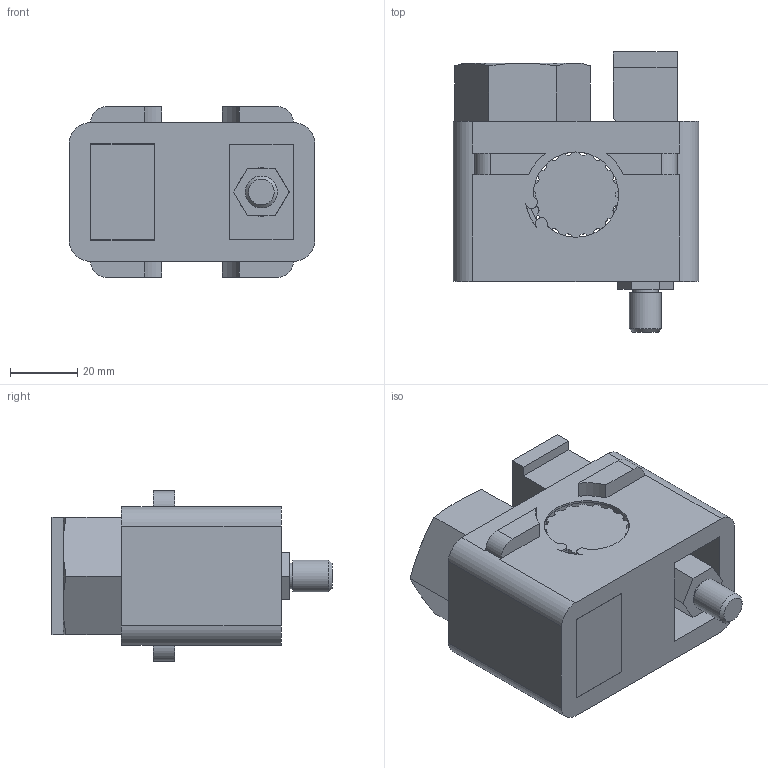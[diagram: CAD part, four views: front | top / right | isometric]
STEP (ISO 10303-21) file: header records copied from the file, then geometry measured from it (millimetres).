
FILE_DESCRIPTION(/* description */ ('STEP AP214'),/* implementation_level */ '2;1');
FILE_NAME(/* name */ 'AEP-20',/* time_stamp */ '2024-12-04T11:11:59+01:00',/* author */ ('License CC BY-ND 4.0'),/* organization */ ('CADENAS'),/* preprocessor_version */ 'ST-DEVELOPER v19.3',/* originating_system */ 'PARTsolutions',/* authorisation */ ' ');
FILE_SCHEMA (('AUTOMOTIVE_DESIGN {1 0 10303 214 3 1 1}'));
Length unit declared in the file: inch
Products named in the file (5): AEP-20; AEP-201; AEP-202; AEP-203; AEP-204
Assembly tree (4 placements, depth 2):
  AEP-20
    AEP-201
    AEP-202
    AEP-203
    AEP-204
Bounding box: 73.03 x 83.36 x 50.77 mm (x, y, z)
Volume: 162884 mm3; surface area: 46966.3 mm2
Topology: 4 solids, 4 shells, 253 faces, 716 edges, 475 vertices
Faces by surface type: plane 179, cylinder 66, cone 8
Full cylindrical faces by diameter (mm): 6.35 x1, 7.633 x1, 9.525 x1, 12.7 x1, 27.94 x1, 30.48 x2
Entity records: 8256 total; most frequent: CARTESIAN_POINT 1507, ORIENTED_EDGE 1402, DIRECTION 1351, EDGE_CURVE 701, LINE 515, VECTOR 515, VERTEX_POINT 470, AXIS2_PLACEMENT_3D 418
